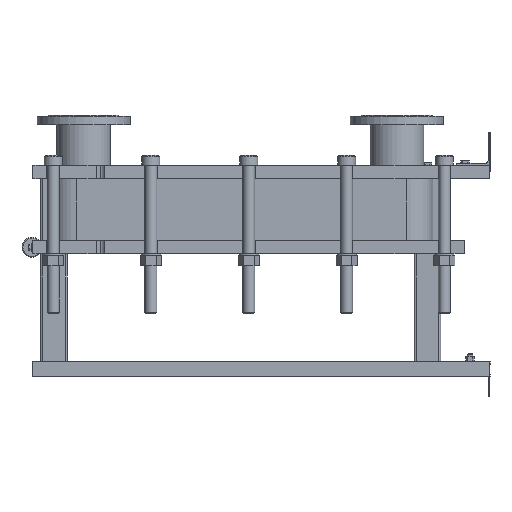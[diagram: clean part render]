
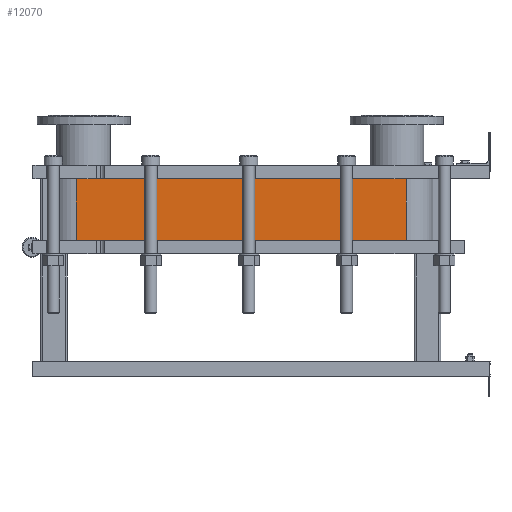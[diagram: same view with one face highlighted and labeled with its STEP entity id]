
A CAD part, left-side view. The second image highlights one B-rep face of the part: STEP entity #12070.
In plain terms, the highlighted planar face has unit normal (-1, 0, 0).
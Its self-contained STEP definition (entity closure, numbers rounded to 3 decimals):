
#1064=LINE('',#21140,#2164);
#1065=LINE('',#21144,#2165);
#1066=LINE('',#21146,#2166);
#1067=LINE('',#21147,#2167);
#2164=VECTOR('',#15790,10.);
#2165=VECTOR('',#15795,10.);
#2166=VECTOR('',#15796,10.);
#2167=VECTOR('',#15797,10.);
#3304=FACE_OUTER_BOUND('',#4091,.T.);
#4091=EDGE_LOOP('',(#9793,#9794,#9795,#9796));
#5677=VERTEX_POINT('',#21137);
#5678=VERTEX_POINT('',#21139);
#5679=VERTEX_POINT('',#21143);
#5680=VERTEX_POINT('',#21145);
#7118=EDGE_CURVE('',#5678,#5677,#1064,.T.);
#7120=EDGE_CURVE('',#5677,#5679,#1065,.T.);
#7121=EDGE_CURVE('',#5680,#5679,#1066,.T.);
#7122=EDGE_CURVE('',#5680,#5678,#1067,.T.);
#9793=ORIENTED_EDGE('',*,*,#7120,.T.);
#9794=ORIENTED_EDGE('',*,*,#7121,.F.);
#9795=ORIENTED_EDGE('',*,*,#7122,.T.);
#9796=ORIENTED_EDGE('',*,*,#7118,.T.);
#11441=PLANE('',#13191);
#12070=ADVANCED_FACE('',(#3304),#11441,.T.);
#13191=AXIS2_PLACEMENT_3D('',#21142,#15793,#15794);
#15790=DIRECTION('',(0.,0.,-1.));
#15793=DIRECTION('center_axis',(-1.,0.,0.));
#15794=DIRECTION('ref_axis',(0.,1.,0.));
#15795=DIRECTION('',(0.,-1.,0.));
#15796=DIRECTION('',(0.,0.,-1.));
#15797=DIRECTION('',(0.,1.,0.));
#21137=CARTESIAN_POINT('',(-248.152,1243.818,-186.3));
#21139=CARTESIAN_POINT('',(-248.152,1243.818,0.));
#21140=CARTESIAN_POINT('',(-248.152,1243.818,0.));
#21142=CARTESIAN_POINT('Origin',(-248.152,251.818,0.));
#21143=CARTESIAN_POINT('',(-248.152,251.818,-186.3));
#21144=CARTESIAN_POINT('',(-248.152,499.818,-186.3));
#21145=CARTESIAN_POINT('',(-248.152,251.818,0.));
#21146=CARTESIAN_POINT('',(-248.152,251.818,0.));
#21147=CARTESIAN_POINT('',(-248.152,251.818,0.));
